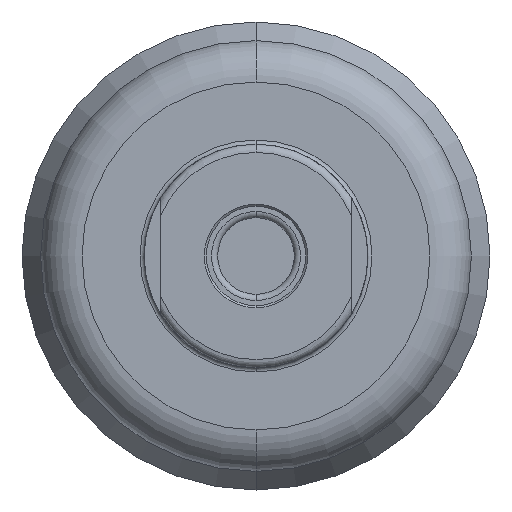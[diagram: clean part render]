
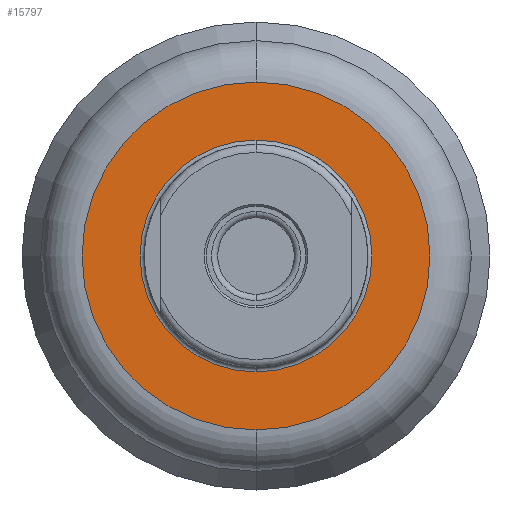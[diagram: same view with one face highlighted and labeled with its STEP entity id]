
A CAD part, front view. The second image highlights one B-rep face of the part: STEP entity #15797.
In plain terms, the highlighted planar face has unit normal (0, -1, 0).
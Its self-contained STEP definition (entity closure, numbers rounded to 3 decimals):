
#407 = VERTEX_POINT ( 'NONE', #12079 ) ;
#683 = ORIENTED_EDGE ( 'NONE', *, *, #9731, .T. ) ;
#1210 = CARTESIAN_POINT ( 'NONE',  ( 54.68, -85.157, 125.766 ) ) ;
#1299 = CARTESIAN_POINT ( 'NONE',  ( 54.68, -85.157, 125.766 ) ) ;
#2537 = CIRCLE ( 'NONE', #9971, 42. ) ;
#3143 = DIRECTION ( 'NONE',  ( 0., 0., -1. ) ) ;
#4677 = DIRECTION ( 'NONE',  ( 0., 0., 1. ) ) ;
#5034 = VERTEX_POINT ( 'NONE', #8698 ) ;
#5250 = VERTEX_POINT ( 'NONE', #10627 ) ;
#5333 = ORIENTED_EDGE ( 'NONE', *, *, #19067, .T. ) ;
#5439 = EDGE_CURVE ( 'NONE', #407, #12095, #2537, .T. ) ;
#5858 = DIRECTION ( 'NONE',  ( 0., 1., 0. ) ) ;
#6280 = AXIS2_PLACEMENT_3D ( 'NONE', #1299, #7480, #12111 ) ;
#6312 = CARTESIAN_POINT ( 'NONE',  ( 54.68, -85.157, 125.766 ) ) ;
#7480 = DIRECTION ( 'NONE',  ( 0., 1., 0. ) ) ;
#8019 = DIRECTION ( 'NONE',  ( 0., -1., 0. ) ) ;
#8698 = CARTESIAN_POINT ( 'NONE',  ( 54.68, -85.157, 97.766 ) ) ;
#8908 = CIRCLE ( 'NONE', #11816, 42. ) ;
#9327 = DIRECTION ( 'NONE',  ( 0., 1., 0. ) ) ;
#9575 = AXIS2_PLACEMENT_3D ( 'NONE', #6312, #9327, #4677 ) ;
#9731 = EDGE_CURVE ( 'NONE', #5250, #5034, #14998, .T. ) ;
#9971 = AXIS2_PLACEMENT_3D ( 'NONE', #10394, #11713, #17721 ) ;
#10394 = CARTESIAN_POINT ( 'NONE',  ( 54.68, -85.157, 125.766 ) ) ;
#10543 = FACE_BOUND ( 'NONE', #14699, .T. ) ;
#10627 = CARTESIAN_POINT ( 'NONE',  ( 54.68, -85.157, 153.766 ) ) ;
#11713 = DIRECTION ( 'NONE',  ( 0., 1., 0. ) ) ;
#11816 = AXIS2_PLACEMENT_3D ( 'NONE', #1210, #5858, #12003 ) ;
#12003 = DIRECTION ( 'NONE',  ( 0., 0., 1. ) ) ;
#12079 = CARTESIAN_POINT ( 'NONE',  ( 54.68, -85.157, 83.766 ) ) ;
#12095 = VERTEX_POINT ( 'NONE', #15021 ) ;
#12111 = DIRECTION ( 'NONE',  ( 0., 0., 1. ) ) ;
#12699 = EDGE_LOOP ( 'NONE', ( #16445, #16937 ) ) ;
#14699 = EDGE_LOOP ( 'NONE', ( #683, #5333 ) ) ;
#14998 = CIRCLE ( 'NONE', #6280, 28. ) ;
#15015 = PLANE ( 'NONE',  #15667 ) ;
#15021 = CARTESIAN_POINT ( 'NONE',  ( 54.68, -85.157, 167.766 ) ) ;
#15667 = AXIS2_PLACEMENT_3D ( 'NONE', #17019, #8019, #3143 ) ;
#15797 = ADVANCED_FACE ( 'NONE', ( #10543, #19710 ), #15015, .T. ) ;
#16346 = EDGE_CURVE ( 'NONE', #12095, #407, #8908, .T. ) ;
#16371 = CIRCLE ( 'NONE', #9575, 28. ) ;
#16445 = ORIENTED_EDGE ( 'NONE', *, *, #16346, .F. ) ;
#16937 = ORIENTED_EDGE ( 'NONE', *, *, #5439, .F. ) ;
#17019 = CARTESIAN_POINT ( 'NONE',  ( 26.68, -85.157, 125.766 ) ) ;
#17721 = DIRECTION ( 'NONE',  ( 0., 0., 1. ) ) ;
#19067 = EDGE_CURVE ( 'NONE', #5034, #5250, #16371, .T. ) ;
#19710 = FACE_OUTER_BOUND ( 'NONE', #12699, .T. ) ;
